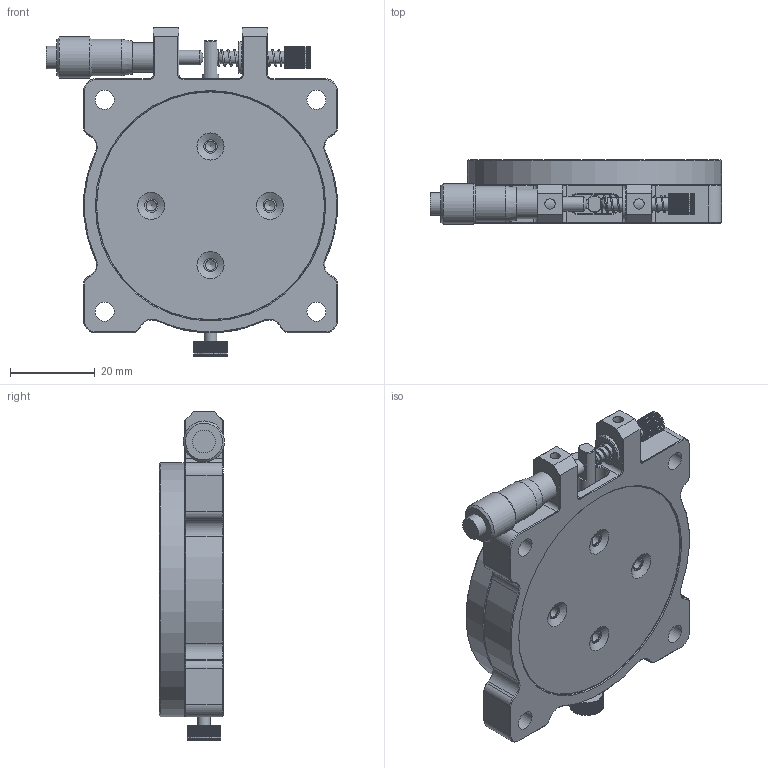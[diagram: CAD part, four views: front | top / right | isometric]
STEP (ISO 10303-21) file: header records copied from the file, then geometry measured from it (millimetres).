
FILE_DESCRIPTION(/* description */ (''),/* implementation_level */ '2;1');
FILE_NAME(/* name */ 'C:\Users\Administrator\Desktop\潮\手动滑台\F-JCR系列\F-JCR-60\F-JCR-60.stp',/* time_stamp */ '2023-07-13T08:13:32+08:00',/* author */ ('Administrator'),/* organization */ (''),/* preprocessor_version */ 'ST-DEVELOPER v19',/* originating_system */ 'Autodesk Inventor 2023',/* authorisation */ '');
FILE_SCHEMA (('AUTOMOTIVE_DESIGN { 1 0 10303 214 3 1 1 }'));
Length unit declared in the file: millimetre
Products named in the file (11): F-JCR-60; F-JCR-60 转盘; F-JCR-60 底盖; F-JCR-60 底座; F-JCR-60 内圈; F-JCR-40-05 推动杆; F-JCR-40-06 M3手拧锁紧螺丝; F-JCR-40-07 弹簧套筒; F-JCR-40-08 M3滚花长螺丝; JALB-71-R    0-6.5圆头千分尺; 0.3-4-15弹簧
Assembly tree (10 placements, depth 2):
  F-JCR-60
    F-JCR-60 转盘
    F-JCR-60 底盖
    F-JCR-60 底座
    F-JCR-60 内圈
    F-JCR-40-05 推动杆
    F-JCR-40-06 M3手拧锁紧螺丝
    F-JCR-40-07 弹簧套筒
    F-JCR-40-08 M3滚花长螺丝
    JALB-71-R    0-6.5圆头千分尺
    0.3-4-15弹簧
Bounding box: 68.75 x 15.35 x 77.5 mm (x, y, z)
Volume: 47997.4 mm3; surface area: 26444.6 mm2
Topology: 10 solids, 10 shells, 589 faces, 1541 edges, 988 vertices
Faces by surface type: plane 282, cylinder 198, cone 98, bspline 7, torus 2, sphere 2
Full cylindrical faces by diameter (mm): 2.459 x17, 3 x3, 3.2 x4, 3.242 x4, 3.5 x1, 4 x1, 4.5 x5, 4.917 x1, 5.4 x1, 5.8 x1, 6 x4, 7 x1, 7.5 x1, 8 x4, 8.6 x1, 9.7 x1, 39.6 x1, 40 x3, 50 x2, 53.8 x1, 54 x1, 60 x1
Entity records: 20909 total; most frequent: CARTESIAN_POINT 5693, DIRECTION 3189, ORIENTED_EDGE 3046, EDGE_CURVE 1523, AXIS2_PLACEMENT_3D 1101, VERTEX_POINT 988, LINE 987, VECTOR 987
